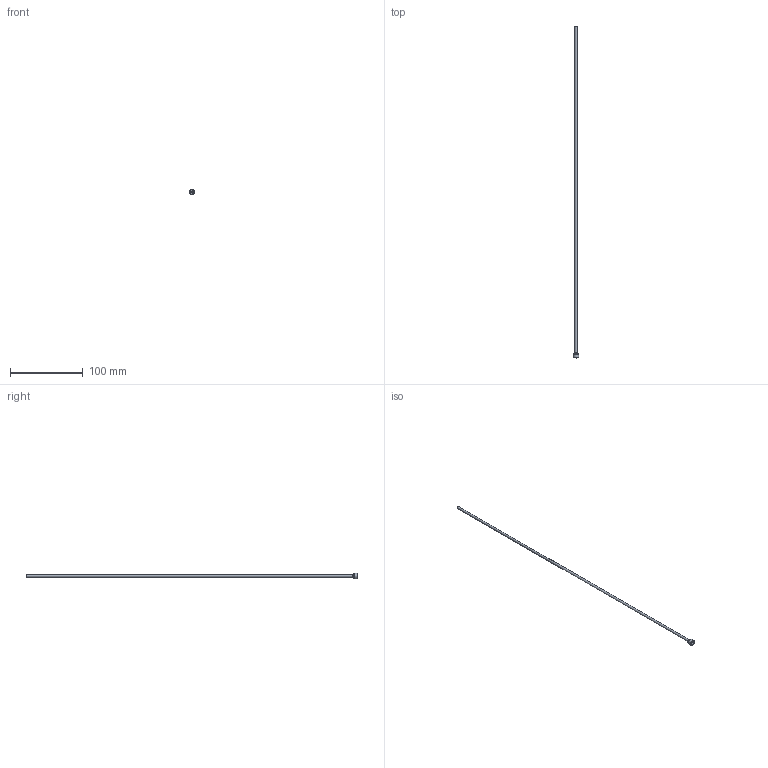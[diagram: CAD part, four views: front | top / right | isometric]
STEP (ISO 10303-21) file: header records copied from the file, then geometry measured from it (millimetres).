
FILE_DESCRIPTION(/* description */ (''),/* implementation_level */ '2;1');
FILE_NAME(/* name */ 'C:/Users/drich/Desktop/PT16-125-18 v2.step',/* time_stamp */ '2019-12-27T15:18:49-06:00',/* author */ (''),/* organization */ (''),/* preprocessor_version */ 'ST-DEVELOPER v18',/* originating_system */ 'Autodesk Translation Framework v8.12.0.6',/* authorisation */ '');
FILE_SCHEMA (('AUTOMOTIVE_DESIGN { 1 0 10303 214 3 1 1 }'));
Length unit declared in the file: inch
Products named in the file (1): PT16-125-18
Bounding box: 7.62 x 457.2 x 7.62 mm (x, y, z)
Volume: 1073.6 mm3; surface area: 8706.8 mm2
Topology: 1 solids, 1 shells, 19 faces, 48 edges, 34 vertices
Faces by surface type: plane 11, cylinder 4, torus 2, cone 2
Full cylindrical faces by diameter (mm): 2.769 x1, 3.175 x1, 4.724 x1, 7.616 x1
Entity records: 633 total; most frequent: DIRECTION 112, CARTESIAN_POINT 102, ORIENTED_EDGE 96, EDGE_CURVE 48, AXIS2_PLACEMENT_3D 44, VERTEX_POINT 34, CIRCLE 24, EDGE_LOOP 24
